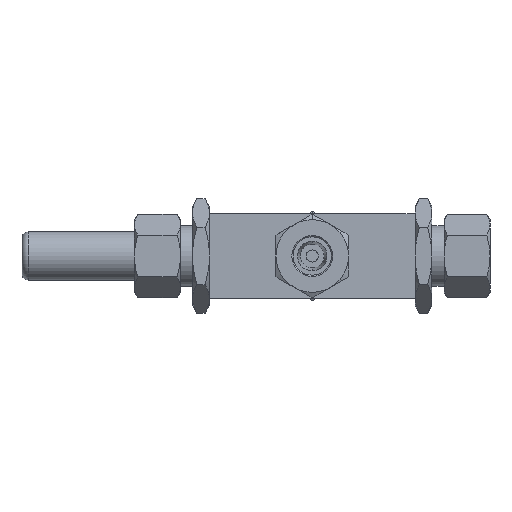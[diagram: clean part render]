
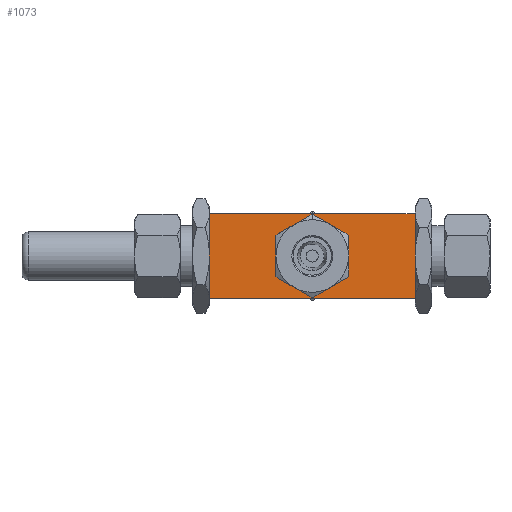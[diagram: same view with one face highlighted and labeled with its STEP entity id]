
A CAD part, front view. The second image highlights one B-rep face of the part: STEP entity #1073.
In plain terms, the highlighted planar face has unit normal (0, -1, 0).
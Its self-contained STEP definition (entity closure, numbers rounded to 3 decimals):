
#24 = DIRECTION ( 'NONE',  ( 0., 1., 0. ) ) ;
#82 = DIRECTION ( 'NONE',  ( 0., 0., -1. ) ) ;
#108 = CARTESIAN_POINT ( 'NONE',  ( 0., -32.5, 0. ) ) ;
#148 = AXIS2_PLACEMENT_3D ( 'NONE', #1081, #1498, #6892 ) ;
#276 = EDGE_CURVE ( 'NONE', #5416, #5990, #3169, .T. ) ;
#317 = VERTEX_POINT ( 'NONE', #5879 ) ;
#353 = CIRCLE ( 'NONE', #3918, 15. ) ;
#517 = DIRECTION ( 'NONE',  ( 0., 0., 1. ) ) ;
#522 = DIRECTION ( 'NONE',  ( 1., 0., 0. ) ) ;
#539 = VECTOR ( 'NONE', #854, 1000. ) ;
#588 = FACE_OUTER_BOUND ( 'NONE', #6879, .T. ) ;
#606 = ORIENTED_EDGE ( 'NONE', *, *, #2100, .F. ) ;
#709 = DIRECTION ( 'NONE',  ( 0., -1., 0. ) ) ;
#723 = VECTOR ( 'NONE', #522, 1000. ) ;
#750 = EDGE_CURVE ( 'NONE', #3102, #4196, #6193, .T. ) ;
#832 = VERTEX_POINT ( 'NONE', #3940 ) ;
#854 = DIRECTION ( 'NONE',  ( 1., 0., 0. ) ) ;
#1029 = DIRECTION ( 'NONE',  ( 0., -1., 0. ) ) ;
#1073 = ADVANCED_FACE ( 'NONE', ( #588, #2118 ), #2149, .F. ) ;
#1081 = CARTESIAN_POINT ( 'NONE',  ( 0., -32.5, 0. ) ) ;
#1285 = ORIENTED_EDGE ( 'NONE', *, *, #5466, .T. ) ;
#1416 = DIRECTION ( 'NONE',  ( 0., 0., -1. ) ) ;
#1473 = CARTESIAN_POINT ( 'NONE',  ( 0., -32.5, 0. ) ) ;
#1483 = DIRECTION ( 'NONE',  ( 0., 0., -1. ) ) ;
#1498 = DIRECTION ( 'NONE',  ( 0., -1., 0. ) ) ;
#1528 = ORIENTED_EDGE ( 'NONE', *, *, #276, .F. ) ;
#1535 = DIRECTION ( 'NONE',  ( 0., -1., 0. ) ) ;
#1624 = EDGE_CURVE ( 'NONE', #2587, #5687, #3295, .T. ) ;
#1645 = VERTEX_POINT ( 'NONE', #3857 ) ;
#1689 = EDGE_LOOP ( 'NONE', ( #6105, #606, #1711, #1528, #4200, #6257, #2322 ) ) ;
#1694 = CARTESIAN_POINT ( 'NONE',  ( -42.5, -32.5, 17.5 ) ) ;
#1711 = ORIENTED_EDGE ( 'NONE', *, *, #4991, .F. ) ;
#2002 = CARTESIAN_POINT ( 'NONE',  ( 0., -32.5, 0. ) ) ;
#2067 = ORIENTED_EDGE ( 'NONE', *, *, #6381, .T. ) ;
#2077 = AXIS2_PLACEMENT_3D ( 'NONE', #3037, #1535, #2512 ) ;
#2100 = EDGE_CURVE ( 'NONE', #4243, #1645, #6632, .T. ) ;
#2118 = FACE_BOUND ( 'NONE', #1689, .T. ) ;
#2149 = PLANE ( 'NONE',  #2582 ) ;
#2322 = ORIENTED_EDGE ( 'NONE', *, *, #750, .F. ) ;
#2356 = CARTESIAN_POINT ( 'NONE',  ( 15., -32.5, 0. ) ) ;
#2386 = DIRECTION ( 'NONE',  ( 0., -1., 0. ) ) ;
#2512 = DIRECTION ( 'NONE',  ( 0., 0., -1. ) ) ;
#2557 = DIRECTION ( 'NONE',  ( 0., 0., -1. ) ) ;
#2582 = AXIS2_PLACEMENT_3D ( 'NONE', #1694, #24, #517 ) ;
#2587 = VERTEX_POINT ( 'NONE', #2699 ) ;
#2699 = CARTESIAN_POINT ( 'NONE',  ( -42.5, -32.5, 17.5 ) ) ;
#2913 = EDGE_CURVE ( 'NONE', #4196, #832, #353, .T. ) ;
#3037 = CARTESIAN_POINT ( 'NONE',  ( 0., -32.5, 0. ) ) ;
#3059 = EDGE_CURVE ( 'NONE', #832, #5416, #3486, .T. ) ;
#3083 = CARTESIAN_POINT ( 'NONE',  ( 0., -32.5, 0. ) ) ;
#3102 = VERTEX_POINT ( 'NONE', #5403 ) ;
#3112 = LINE ( 'NONE', #4292, #723 ) ;
#3169 = CIRCLE ( 'NONE', #148, 15. ) ;
#3186 = EDGE_CURVE ( 'NONE', #5687, #317, #6210, .T. ) ;
#3271 = EDGE_CURVE ( 'NONE', #1645, #3102, #5142, .T. ) ;
#3295 = LINE ( 'NONE', #4376, #539 ) ;
#3486 = CIRCLE ( 'NONE', #4912, 15. ) ;
#3596 = CARTESIAN_POINT ( 'NONE',  ( -15., -32.5, 0. ) ) ;
#3627 = DIRECTION ( 'NONE',  ( 0., -1., 0. ) ) ;
#3769 = DIRECTION ( 'NONE',  ( 0., 0., -1. ) ) ;
#3832 = VERTEX_POINT ( 'NONE', #6192 ) ;
#3857 = CARTESIAN_POINT ( 'NONE',  ( 7.5, -32.5, 12.99 ) ) ;
#3918 = AXIS2_PLACEMENT_3D ( 'NONE', #2002, #2386, #4521 ) ;
#3940 = CARTESIAN_POINT ( 'NONE',  ( -7.5, -32.5, -12.99 ) ) ;
#3944 = VECTOR ( 'NONE', #3769, 1000. ) ;
#3957 = CARTESIAN_POINT ( 'NONE',  ( 42.5, -32.5, 17.5 ) ) ;
#4011 = ORIENTED_EDGE ( 'NONE', *, *, #3186, .F. ) ;
#4135 = CARTESIAN_POINT ( 'NONE',  ( 0., -32.5, 0. ) ) ;
#4196 = VERTEX_POINT ( 'NONE', #3596 ) ;
#4200 = ORIENTED_EDGE ( 'NONE', *, *, #3059, .F. ) ;
#4243 = VERTEX_POINT ( 'NONE', #2356 ) ;
#4292 = CARTESIAN_POINT ( 'NONE',  ( -42.5, -32.5, -17.5 ) ) ;
#4376 = CARTESIAN_POINT ( 'NONE',  ( -42.5, -32.5, 17.5 ) ) ;
#4521 = DIRECTION ( 'NONE',  ( 0., 0., -1. ) ) ;
#4591 = AXIS2_PLACEMENT_3D ( 'NONE', #1473, #1029, #2557 ) ;
#4640 = DIRECTION ( 'NONE',  ( 0., -1., 0. ) ) ;
#4662 = CARTESIAN_POINT ( 'NONE',  ( 0., -32.5, -15. ) ) ;
#4841 = CARTESIAN_POINT ( 'NONE',  ( 42.5, -32.5, 17.5 ) ) ;
#4909 = VECTOR ( 'NONE', #1416, 1000. ) ;
#4912 = AXIS2_PLACEMENT_3D ( 'NONE', #108, #709, #82 ) ;
#4991 = EDGE_CURVE ( 'NONE', #5990, #4243, #5943, .T. ) ;
#5142 = CIRCLE ( 'NONE', #4591, 15. ) ;
#5345 = CARTESIAN_POINT ( 'NONE',  ( -42.5, -32.5, 17.5 ) ) ;
#5403 = CARTESIAN_POINT ( 'NONE',  ( -7.5, -32.5, 12.99 ) ) ;
#5416 = VERTEX_POINT ( 'NONE', #4662 ) ;
#5466 = EDGE_CURVE ( 'NONE', #2587, #3832, #5805, .T. ) ;
#5650 = ORIENTED_EDGE ( 'NONE', *, *, #1624, .F. ) ;
#5687 = VERTEX_POINT ( 'NONE', #4841 ) ;
#5805 = LINE ( 'NONE', #5345, #3944 ) ;
#5879 = CARTESIAN_POINT ( 'NONE',  ( 42.5, -32.5, -17.5 ) ) ;
#5943 = CIRCLE ( 'NONE', #6379, 15. ) ;
#5990 = VERTEX_POINT ( 'NONE', #6402 ) ;
#6105 = ORIENTED_EDGE ( 'NONE', *, *, #3271, .F. ) ;
#6192 = CARTESIAN_POINT ( 'NONE',  ( -42.5, -32.5, -17.5 ) ) ;
#6193 = CIRCLE ( 'NONE', #6638, 15. ) ;
#6210 = LINE ( 'NONE', #3957, #4909 ) ;
#6257 = ORIENTED_EDGE ( 'NONE', *, *, #2913, .F. ) ;
#6379 = AXIS2_PLACEMENT_3D ( 'NONE', #3083, #4640, #6690 ) ;
#6381 = EDGE_CURVE ( 'NONE', #3832, #317, #3112, .T. ) ;
#6402 = CARTESIAN_POINT ( 'NONE',  ( 7.5, -32.5, -12.99 ) ) ;
#6632 = CIRCLE ( 'NONE', #2077, 15. ) ;
#6638 = AXIS2_PLACEMENT_3D ( 'NONE', #4135, #3627, #1483 ) ;
#6690 = DIRECTION ( 'NONE',  ( 0., 0., -1. ) ) ;
#6879 = EDGE_LOOP ( 'NONE', ( #2067, #4011, #5650, #1285 ) ) ;
#6892 = DIRECTION ( 'NONE',  ( 0., 0., -1. ) ) ;
